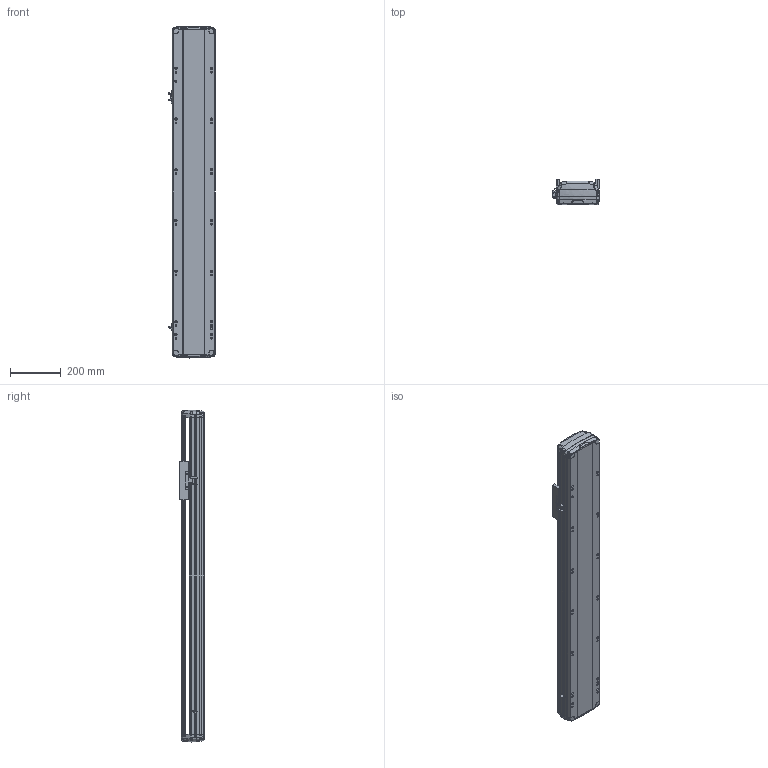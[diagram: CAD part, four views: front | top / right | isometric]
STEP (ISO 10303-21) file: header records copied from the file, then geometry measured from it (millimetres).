
FILE_DESCRIPTION (( 'STEP AP214' ), '1' );
FILE_NAME ('RTH17-XX-900-B-M40-C4.STEP', '2025-10-24T08:38:12', ( '' ), ( '' ), 'SwSTEP 2.0', 'SolidWorks 2018', '' );
FILE_SCHEMA (( 'AUTOMOTIVE_DESIGN' ));
Length unit declared in the file: millimetre
Products named in the file (7): N_RTH17-M-011底座^RTH17-XX-XX-B-M40-C4（方程式）; RTH17-XX-900-B-M40-C4; N_OMRON EE-SX672 換覜ん^RTH17-XX-XX-B-M40-C4ㄗ源最宒ㄘ; N_RTH17-GY-001P^RTH17-XX-XX-B-M40-C4（方程式）; N_RTH17-E-004丝杆螺母连接座^RTH17-XX-XX-B-M40-C4（方程式）; N_RTH17-M-007上盖^RTH17-XX-XX-B-M40-C4（方程式）; N_RTH-L-012 感应片(外置)^RTH17-XX-XX-B-M40-C4（方程式）
Assembly tree (9 placements, depth 2):
  RTH17-XX-900-B-M40-C4
    N_RTH17-M-011底座^RTH17-XX-XX-B-M40-C4（方程式）
    N_RTH17-M-007上盖^RTH17-XX-XX-B-M40-C4（方程式）
    N_OMRON EE-SX672 換覜ん^RTH17-XX-XX-B-M40-C4ㄗ源最宒ㄘ  x3
    N_RTH-L-012 感应片(外置)^RTH17-XX-XX-B-M40-C4（方程式）
    N_RTH17-E-004丝杆螺母连接座^RTH17-XX-XX-B-M40-C4（方程式）
    N_RTH17-GY-001P^RTH17-XX-XX-B-M40-C4（方程式）  x2
Bounding box: 183.5 x 97 x 1309.88 mm (x, y, z)
Volume: 9563028.3 mm3; surface area: 1318523.9 mm2
Topology: 7 solids, 11 shells, 1752 faces, 4934 edges, 3206 vertices
Faces by surface type: plane 813, cylinder 473, bspline 420, cone 28, torus 18
Entity records: 41814 total; most frequent: CARTESIAN_POINT 17297, ORIENTED_EDGE 5372, DIRECTION 4246, EDGE_CURVE 2690, VERTEX_POINT 1760, VECTOR 1454, LINE 1454, AXIS2_PLACEMENT_3D 1396
